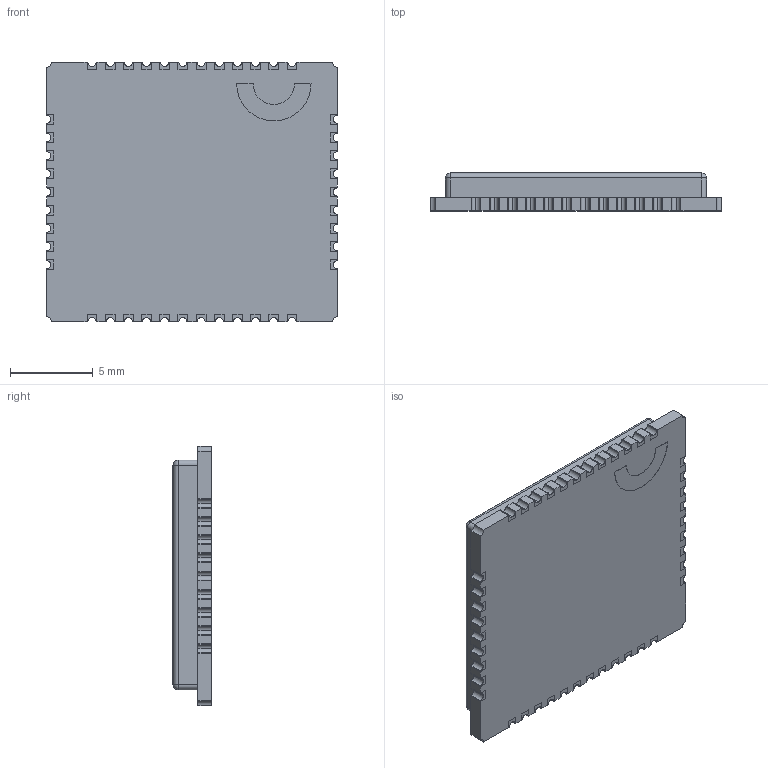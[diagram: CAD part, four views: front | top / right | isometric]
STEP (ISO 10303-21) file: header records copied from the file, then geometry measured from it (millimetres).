
FILE_DESCRIPTION (( 'STEP AP214' ), '1' );
FILE_NAME ('User Library-SIM800C-1.STEP', '2020-02-20T09:35:20', ( '' ), ( '' ), 'SwSTEP 2.0', 'SolidWorks 2019', '' );
FILE_SCHEMA (( 'AUTOMOTIVE_DESIGN' ));
Length unit declared in the file: millimetre
Products named in the file (4): User Library-SIM800C-1; SIM800C_pcb_D‚faut; SIM800C_Cup_D‚faut; SIM800C_pads_D‚faut
Assembly tree (44 placements, depth 2):
  User Library-SIM800C-1
    SIM800C_Cup_D‚faut
    SIM800C_pads_D‚faut  x42
    SIM800C_pcb_D‚faut
Bounding box: 17.6 x 2.34 x 15.7 mm (x, y, z)
Volume: 550.1 mm3; surface area: 1231 mm2
Topology: 44 solids, 44 shells, 1818 faces, 4587 edges, 3050 vertices
Faces by surface type: plane 1374, bspline 296, cylinder 144, sphere 4
Entity records: 61584 total; most frequent: CARTESIAN_POINT 25382, ORIENTED_EDGE 7444, DIRECTION 5654, EDGE_CURVE 3722, LINE 3006, VECTOR 3006, VERTEX_POINT 2476, EDGE_LOOP 1646
